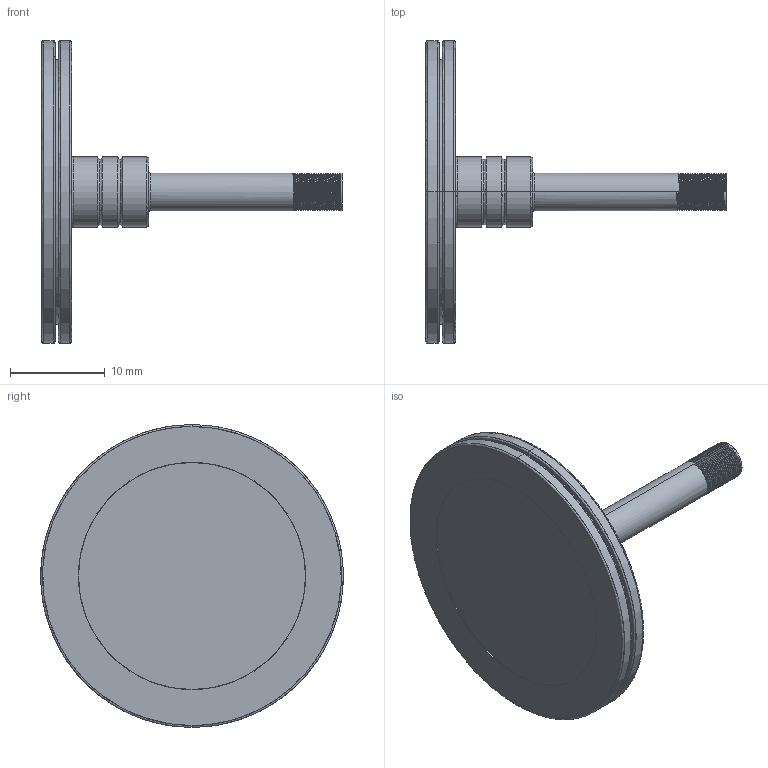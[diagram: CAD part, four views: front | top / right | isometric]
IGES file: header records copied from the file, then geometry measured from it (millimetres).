
Start section: SolidWorks IGES file using analytic representation for surfaces
Global section: file name: C:\Users\Kamkarian\Desktop\020Pulley.IGS; native system: SolidWorks 2016; preprocessor: SolidWorks 2016; author: Kamkarian; date: 180617.000237; units: millimetre
Bounding box: 31.75 x 32 x 32 mm (x, y, z)
Surface area: 2759.1 mm2 (no closed solid volume)
Topology: 0 solids, 0 shells, 90 faces, 1708 edges, 1708 vertices
Faces by surface type: revolution 56, bspline 34
